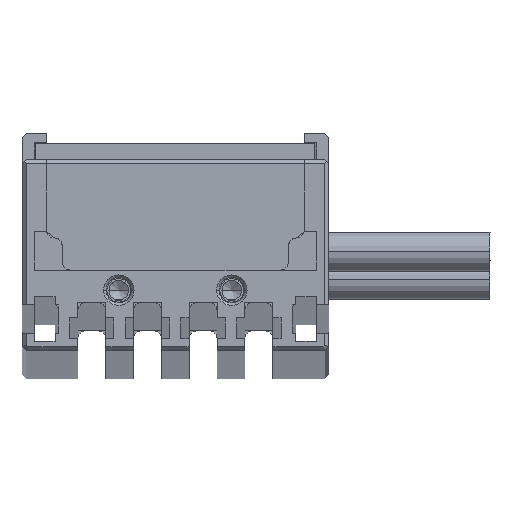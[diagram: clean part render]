
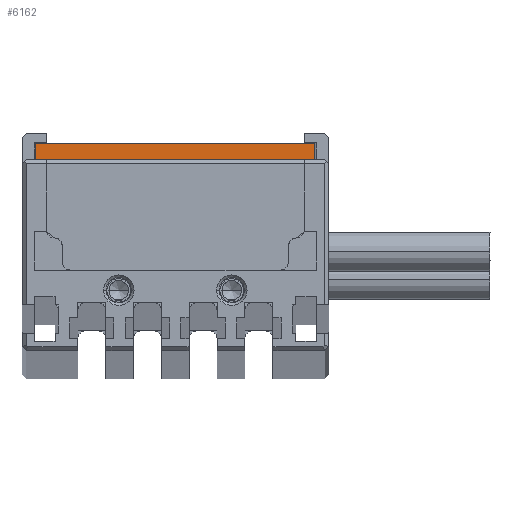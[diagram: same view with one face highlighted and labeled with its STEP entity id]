
A CAD part, top view. The second image highlights one B-rep face of the part: STEP entity #6162.
In plain terms, the highlighted planar face has unit normal (0, 0, 1).
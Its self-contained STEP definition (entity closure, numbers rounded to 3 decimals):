
#1947=DIRECTION('',(-1.,0.,0.));
#1948=VECTOR('',#1947,34.6);
#1949=CARTESIAN_POINT('',(17.3,15.7,1000.));
#1950=LINE('',#1949,#1948);
#1951=DIRECTION('',(0.,1.,0.));
#1952=VECTOR('',#1951,2.);
#1953=CARTESIAN_POINT('',(17.3,13.7,1000.));
#1954=LINE('',#1953,#1952);
#1955=DIRECTION('',(1.,0.,0.));
#1956=VECTOR('',#1955,34.6);
#1957=CARTESIAN_POINT('',(-17.3,13.7,1000.));
#1958=LINE('',#1957,#1956);
#1959=DIRECTION('',(0.,-1.,0.));
#1960=VECTOR('',#1959,2.);
#1961=CARTESIAN_POINT('',(-17.3,15.7,1000.));
#1962=LINE('',#1961,#1960);
#2791=CARTESIAN_POINT('',(17.3,15.7,1000.));
#2792=CARTESIAN_POINT('',(-17.3,15.7,1000.));
#2793=VERTEX_POINT('',#2791);
#2794=VERTEX_POINT('',#2792);
#2795=CARTESIAN_POINT('',(-17.3,13.7,1000.));
#2796=VERTEX_POINT('',#2795);
#2797=CARTESIAN_POINT('',(17.3,13.7,1000.));
#2798=VERTEX_POINT('',#2797);
#6151=CARTESIAN_POINT('',(0.,0.,1000.));
#6152=DIRECTION('',(0.,0.,1.));
#6153=DIRECTION('',(0.,-1.,0.));
#6154=AXIS2_PLACEMENT_3D('',#6151,#6152,#6153);
#6155=PLANE('',#6154);
#6156=ORIENTED_EDGE('',*,*,#6130,.F.);
#6157=ORIENTED_EDGE('',*,*,#6143,.F.);
#6158=ORIENTED_EDGE('',*,*,#5323,.F.);
#6159=ORIENTED_EDGE('',*,*,#6102,.F.);
#6160=EDGE_LOOP('',(#6156,#6157,#6158,#6159));
#6161=FACE_OUTER_BOUND('',#6160,.F.);
#5323=EDGE_CURVE('',#2796,#2798,#1958,.T.);
#6102=EDGE_CURVE('',#2794,#2796,#1962,.T.);
#6130=EDGE_CURVE('',#2793,#2794,#1950,.T.);
#6143=EDGE_CURVE('',#2798,#2793,#1954,.T.);
#6162=ADVANCED_FACE('',(#6161),#6155,.T.);
